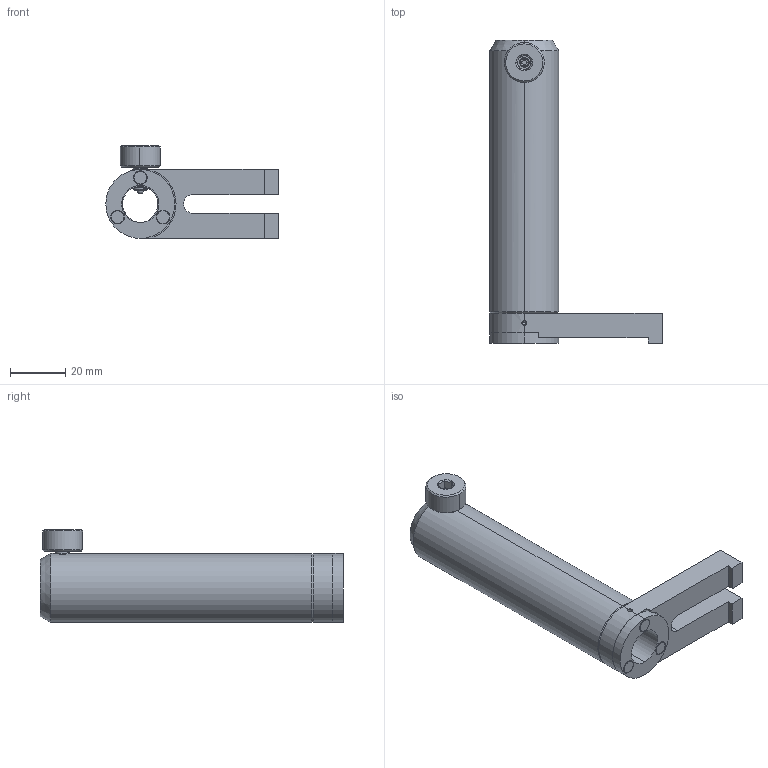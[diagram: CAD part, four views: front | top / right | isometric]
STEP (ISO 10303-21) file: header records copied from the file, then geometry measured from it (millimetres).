
FILE_DESCRIPTION((''),'2;1');
FILE_NAME('CA110-XC_ASM','2020-12-21T',('Administrator'),(''),'CREO PARAMETRIC BY PTC INC, 2015290','CREO PARAMETRIC BY PTC INC, 2015290','');
FILE_SCHEMA(('CONFIG_CONTROL_DESIGN'));
Length unit declared in the file: millimetre
Products named in the file (9): CAXX-XC_A2; CAXX-XC_A3; MAGNET_5X3; CA110-XC_A1; M6_SCREW_1; M6_SCREW_2; SPRING_3X6; M4X3_HS_2; CA110-XC_ASM
Assembly tree (10 placements, depth 2):
  CA110-XC_ASM
    CAXX-XC_A2
    CAXX-XC_A3
    MAGNET_5X3  x3
    CA110-XC_A1
    M6_SCREW_1
    M6_SCREW_2
    SPRING_3X6
    M4X3_HS_2
Bounding box: 62.5 x 110.13 x 33.67 mm (x, y, z)
Volume: 46955.1 mm3; surface area: 21489.4 mm2
Topology: 10 solids, 10 shells, 277 faces, 687 edges, 438 vertices
Faces by surface type: cylinder 122, plane 78, bspline 35, cone 28, torus 12, sphere 2
Entity records: 25515 total; most frequent: CARTESIAN_POINT 19433, ORIENTED_EDGE 1306, DIRECTION 1079, EDGE_CURVE 653, VERTEX_POINT 422, AXIS2_PLACEMENT_3D 397, EDGE_LOOP 289, VECTOR 285
